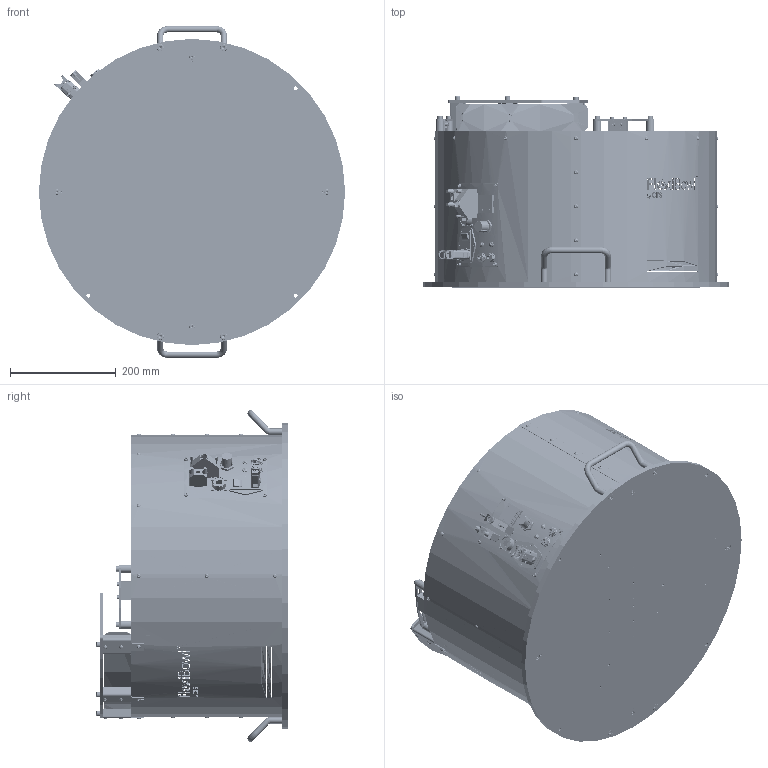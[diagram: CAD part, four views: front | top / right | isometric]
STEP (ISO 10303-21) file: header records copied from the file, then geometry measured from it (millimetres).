
FILE_DESCRIPTION (( 'STEP AP214' ), '1' );
FILE_NAME ('FB500C.STEP', '2021-09-09T09:16:55', ( '' ), ( '' ), 'SwSTEP 2.0', 'SolidWorks 2020', '' );
FILE_SCHEMA (( 'AUTOMOTIVE_DESIGN' ));
Length unit declared in the file: millimetre
Products named in the file (80): CM000170; CE000007; CM000478; PD001059; PD001642; CM000050; CE000327; Copia di Connettore te 2 poli - Copia^CE000302; CM000686_002; CM000008_002; CM000043; CE000302; PD001305; CE000316; PD001736; CM000008; PD001120; CM000024; CM000026; CE000013; Copia di 39-01-2045^CE000326; CM000025; CM000008_005; CE000030; PD001111; CM000027; PD002030; PD000043; Copia di 39-01-2025^CE000302; FB500C; PD001118; Copia di Led RDY_FLT^CE000326; PD001117; CM000642; PD001360_FB500; CM000031; Copia di connector_amet-15rs^CE000302; CM000166; PD001106; CM000006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
Assembly tree (205 placements, depth 3):
  FB500C
    CM000032  x4
    CM000031  x7
    CM000048  x24
    CM000170  x4
    CM000050  x3
    CM000478  x6
    CM000166  x12
    CM000642  x4
    CM000027  x4
    CM000091  x2
    CM000021  x15
    CM000024  x11
    CM000026  x11
    CM000025  x8
    CM000043  x2
    CM000006  x4
    CM000051  x4
    PD001071
    CM000001  x2
    PD001440  x4
    PD001740
    PD001739
    PD001736  x2
    PD001642
    PD001356
    PD001305
    PD000709
    PD000031
    PD001106
    PD001109  x3
    PD001111  x3
    PD001112
    PD001059
    PD000043  x4
    PD001118  x2
    PD001119  x2
    PD001120
    PD001117
    PD001360_FB500
    CE000007
    CM000015  x2
      CM000015_001
      CM000015_002
    CE000013  x2
    CE000005
    CM000008
      CM000008_001
      CM000008_003  x2
      CM000008_002
      CM000008_004
      CM000008_005
    CE000302
      Copia di connector_a-ds_25_pp-f^CE000302
      Copia di 15 poli femmina^CE000302
      Copia di connector_amet-15rs^CE000302
      Copia di Connettore te 2 poli - Copia^CE000302
      Copia di 39-01-2025^CE000302
    CE000030  x2
    CM000424
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Bounding box: 580 x 362 x 628.99 mm (x, y, z)
Volume: 7029140.1 mm3; surface area: 3090450.7 mm2
Topology: 213 solids, 232 shells, 14941 faces, 38458 edges, 24360 vertices
Faces by surface type: plane 7158, cylinder 3828, cone 1696, bspline 1515, torus 668, sphere 76
Entity records: 544959 total; most frequent: CARTESIAN_POINT 203595, ORIENTED_EDGE 62722, DIRECTION 51982, EDGE_CURVE 31563, VERTEX_POINT 20544, AXIS2_PLACEMENT_3D 18637, LINE 14708, VECTOR 14708
